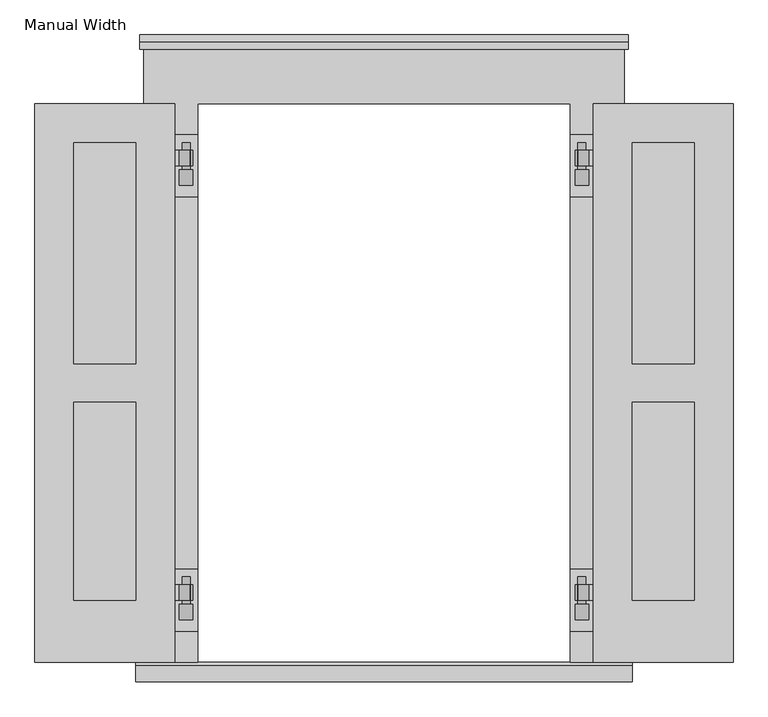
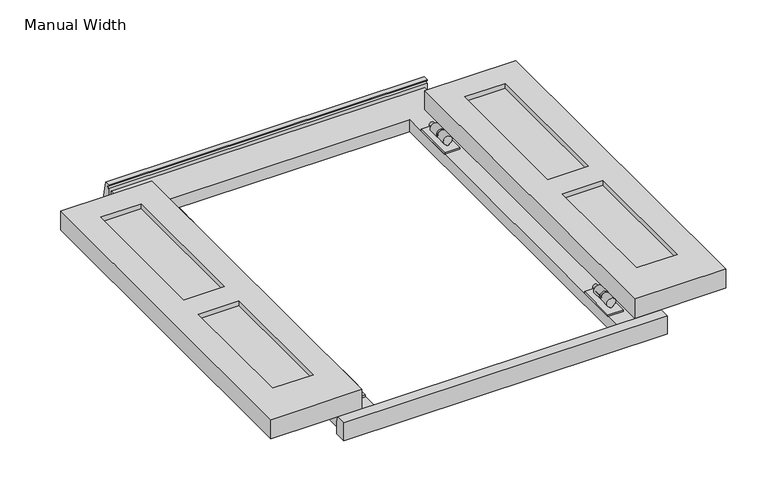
"""IFC4 building model written with IfcOpenShell, lengths in millimetres: proxy geometry, Shutters-Trim-Window-Exterior-Flat-Decorative_Drip_Cap-Cape_Cod : Manual Width."""

from ifc_helpers import new_model, si_unit, point, frame, frame_2d, origin, origin_with_axes, place, context, project, spatial, polyline, circle_curve, trimmed, segment, composite_curve, outline, extrude, source, transform, mapped, element, save
from ifc_brep_helpers import plane_surface, cylinder_surface, revolved_surface, advanced_brep


def manual_width_5ed0646b(model_context):
    return source(origin(), model_context, "Body", "SolidModel", [
        extrude(outline(polyline([(-571.5, 0.0), (-342.9, 0.0), (-342.9, -914.4), (-571.5, -914.4), (-571.5, 0.0)]), holes=[polyline([(-508.0, -63.5), (-508.0, -425.45), (-406.4, -425.45), (-406.4, -63.5), (-508.0, -63.5)]), polyline([(-406.4, -488.95), (-508.0, -488.95), (-508.0, -812.8), (-406.4, -812.8), (-406.4, -488.95)])]), frame((0.0, 0.0, 44.45), z_axis=(0.0, 0.0, 1.0), x_axis=(1.0, 0.0, 0.0)), (0.0, 0.0, 1.0), 50.8),
        extrude(outline(polyline([(-508.0, -63.5), (-406.4, -63.5), (-406.4, -425.45), (-508.0, -425.45), (-508.0, -63.5)])), frame((0.0, 0.0, 57.15), z_axis=(0.0, 0.0, 1.0), x_axis=(1.0, 0.0, 0.0)), (0.0, 0.0, 1.0), 25.4),
        extrude(outline(polyline([(-406.4, -488.95), (-406.4, -812.8), (-508.0, -812.8), (-508.0, -488.95), (-406.4, -488.95)])), frame((0.0, 0.0, 57.15), z_axis=(0.0, 0.0, 1.0), x_axis=(1.0, 0.0, 0.0)), (0.0, 0.0, 1.0), 25.4),
        extrude(outline(polyline([(571.5, 0.0), (571.5, -914.4), (342.9, -914.4), (342.9, 0.0), (571.5, 0.0)]), holes=[polyline([(508.0, -63.5), (406.4, -63.5), (406.4, -425.45), (508.0, -425.45), (508.0, -63.5)]), polyline([(406.4, -488.95), (406.4, -812.8), (508.0, -812.8), (508.0, -488.95), (406.4, -488.95)])]), frame((0.0, 0.0, 44.45), z_axis=(0.0, 0.0, 1.0), x_axis=(1.0, 0.0, 0.0)), (0.0, 0.0, 1.0), 50.8),
        extrude(outline(polyline([(508.0, -63.5), (508.0, -425.45), (406.4, -425.45), (406.4, -63.5), (508.0, -63.5)])), frame((0.0, 0.0, 57.15), z_axis=(0.0, 0.0, 1.0), x_axis=(1.0, 0.0, 0.0)), (0.0, 0.0, 1.0), 25.4),
        extrude(outline(polyline([(406.4, -488.95), (508.0, -488.95), (508.0, -812.8), (406.4, -812.8), (406.4, -488.95)])), frame((0.0, 0.0, 57.15), z_axis=(0.0, 0.0, 1.0), x_axis=(1.0, 0.0, 0.0)), (0.0, 0.0, 1.0), 25.4),
        extrude(outline(polyline([(-342.9, -762.0), (-304.8, -762.0), (-304.8, -863.6), (-342.9, -863.6), (-342.9, -762.0)])), frame((0.0, 0.0, 31.75), z_axis=(0.0, 0.0, 1.0), x_axis=(1.0, 0.0, 0.0)), (0.0, 0.0, 1.0), 4.7625),
        advanced_brep(
        [(-388.9375, -774.7, 44.45), (-363.474, -774.7, 44.45), (-363.474, -774.7, 39.6875), (-388.9375, -774.7, 39.6875), (-388.9375, -825.5, 39.6875), (-363.474, -825.5, 39.6875), (-363.474, -825.5, 44.45), (-388.9375, -825.5, 44.45), (-363.474, -787.4, 39.6875), (-323.85, -787.4, 39.6875), (-323.85, -812.8, 39.6875), (-363.474, -812.8, 39.6875), (-363.474, -812.8, 44.45), (-323.85, -812.8, 44.45), (-323.85, -787.4, 44.45), (-363.474, -787.4, 44.45), (-330.2, -812.8, 50.8), (-330.2, -787.4, 50.8), (-330.2, -812.8, 46.0375), (-330.2, -787.4, 46.0375), (-334.9625, -812.8, 46.0375), (-334.9625, -787.4, 46.0375), (-334.9625, -812.8, 50.8), (-334.9625, -787.4, 50.8)],
        [
            (0, 1),
            (1, 2),
            (2, 3),
            (3, 0),
            (4, 5),
            (5, 6),
            (6, 7),
            (7, 4),
            (2, 8),
            (8, 9),
            (9, 10),
            (10, 11),
            (11, 5),
            (4, 3),
            (7, 0),
            (6, 12),
            (12, 13),
            (13, 14),
            (14, 15),
            (15, 1),
            (16, 17),
            (17, 14, circle_curve(frame((-323.85, -787.4, 50.8), z_axis=(0.0, 1.0, 0.0), x_axis=(1.0, 0.0, 0.0)), 6.35)),
            (13, 16, circle_curve(frame((-323.85, -812.8, 50.8), z_axis=(0.0, -1.0, 0.0), x_axis=(1.0, 0.0, 0.0)), 6.35)),
            (18, 19),
            (19, 17),
            (16, 18),
            (20, 21),
            (21, 19),
            (18, 20),
            (22, 23),
            (23, 21),
            (20, 22),
            (9, 23, circle_curve(frame((-323.85, -787.4, 50.8), z_axis=(0.0, -1.0, 0.0), x_axis=(1.0, 0.0, 0.0)), 11.1125)),
            (22, 10, circle_curve(frame((-323.85, -812.8, 50.8), z_axis=(0.0, 1.0, 0.0), x_axis=(1.0, 0.0, 0.0)), 11.1125)),
            (12, 11),
            (8, 15),
        ],
        [
            plane_surface(frame((-323.85, -774.7, 50.8), z_axis=(0.0, 1.0, 0.0), x_axis=(0.0, 0.0, 1.0))),
            plane_surface(frame((-323.85, -825.5, 50.8), z_axis=(0.0, -1.0, 0.0), x_axis=(0.0, 0.0, 1.0))),
            plane_surface(frame((-388.9375, -774.7, 39.6875), z_axis=(0.0, 0.0, -1.0), x_axis=(0.0, -1.0, 0.0))),
            plane_surface(frame((-388.9375, -774.7, 44.45), z_axis=(-1.0, 0.0, 0.0), x_axis=(0.0, -1.0, 0.0))),
            plane_surface(frame((-323.85, -774.7, 44.45), z_axis=(0.0, 0.0, 1.0), x_axis=(0.0, -1.0, 0.0))),
            revolved_surface(polyline([(-317.5, -812.8, 50.8), (-317.5, -787.4, 50.8)]), (-323.85, -774.7, 50.8), (0.0, -1.0, 0.0)),
            plane_surface(frame((-330.2, -774.7, 46.0375), z_axis=(1.0, 0.0, 0.0), x_axis=(0.0, -1.0, 0.0))),
            plane_surface(frame((-334.9625, -774.7, 46.0375), z_axis=(0.0, 0.0, -1.0), x_axis=(0.0, -1.0, 0.0))),
            plane_surface(frame((-334.9625, -774.7, 50.8), z_axis=(-1.0, 0.0, 0.0), x_axis=(0.0, -1.0, 0.0))),
            cylinder_surface(frame((-323.85, -774.7, 50.8), z_axis=(0.0, 1.0, 0.0), x_axis=(1.0, 0.0, 0.0)), 11.1125),
            plane_surface(frame((-323.85, -812.8, 50.8), z_axis=(0.0, -1.0, 0.0), x_axis=(0.0, 0.0, 1.0))),
            plane_surface(frame((-363.474, -812.8, 44.45), z_axis=(1.0, 0.0, 0.0), x_axis=(0.0, -1.0, 0.0))),
            plane_surface(frame((-323.85, -787.4, 50.8), z_axis=(0.0, 1.0, 0.0), x_axis=(0.0, 0.0, 1.0))),
            plane_surface(frame((-363.474, -774.7, 44.45), z_axis=(1.0, 0.0, 0.0), x_axis=(0.0, -1.0, 0.0))),
        ],
        [
            (0, [[1, 2, 3, 4]]),
            (1, [[5, 6, 7, 8]]),
            (2, [[-3, 9, 10, 11, 12, 13, -5, 14]]),
            (3, [[-14, -8, 15, -4]]),
            (4, [[-7, 16, 17, 18, 19, 20, -1, -15]]),
            (5, [[21, 22, -18, 23]]),
            (6, [[24, 25, -21, 26]]),
            (7, [[27, 28, -24, 29]]),
            (8, [[30, 31, -27, 32]]),
            (9, [[-11, 33, -30, 34]]),
            (10, [[-12, -34, -32, -29, -26, -23, -17, 35]]),
            (11, [[-16, -6, -13, -35]]),
            (12, [[-19, -22, -25, -28, -31, -33, -10, 36]]),
            (13, [[-9, -2, -20, -36]]),
        ],
    ),
        advanced_brep(
        [(-326.23125, -819.15, 36.5125), (-326.23125, -819.15, 39.945632), (-321.46875, -819.15, 39.945632), (-321.46875, -819.15, 36.5125), (-317.5, -819.15, 50.8), (-330.2, -819.15, 50.8), (-326.23125, -844.55, 36.5125), (-321.46875, -844.55, 36.5125), (-321.46875, -844.55, 39.945632), (-326.23125, -844.55, 39.945632), (-330.2, -774.7, 50.8), (-317.5, -774.7, 50.8)],
        [
            (0, 1),
            (1, 2, circle_curve(frame((-323.85, -819.15, 50.8), z_axis=(0.0, 1.0, 0.0), x_axis=(1.0, 0.0, 0.0)), 11.1125)),
            (2, 3),
            (3, 0),
            (4, 5, circle_curve(frame((-323.85, -819.15, 50.8), z_axis=(0.0, -1.0, 0.0), x_axis=(1.0, 0.0, 0.0)), 6.35)),
            (5, 4, circle_curve(frame((-323.85, -819.15, 50.8), z_axis=(0.0, -1.0, 0.0), x_axis=(1.0, 0.0, 0.0)), 6.35)),
            (6, 7),
            (7, 8),
            (8, 9, circle_curve(frame((-323.85, -844.55, 50.8), z_axis=(0.0, -1.0, 0.0), x_axis=(1.0, 0.0, 0.0)), 11.1125)),
            (9, 6),
            (0, 6),
            (9, 1),
            (3, 7),
            (2, 8),
            (10, 11, circle_curve(frame((-323.85, -774.7, 50.8), z_axis=(0.0, 1.0, 0.0), x_axis=(1.0, 0.0, 0.0)), 6.35)),
            (11, 10, circle_curve(frame((-323.85, -774.7, 50.8), z_axis=(0.0, 1.0, 0.0), x_axis=(1.0, 0.0, 0.0)), 6.35)),
            (11, 4),
            (5, 10),
        ],
        [
            plane_surface(frame((-321.46875, -819.15, 36.5125), z_axis=(0.0, 1.0, 0.0), x_axis=(1.0, 0.0, 6.23955382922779e-12))),
            plane_surface(frame((-321.46875, -844.55, 36.5125), z_axis=(0.0, -1.0, 0.0), x_axis=(-1.0, 0.0, -6.23955382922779e-12))),
            plane_surface(frame((-326.23125, -819.15, 39.945632), z_axis=(-1.0, 0.0, 0.0), x_axis=(0.0, -1.0, 0.0))),
            plane_surface(frame((-326.23125, -819.15, 36.5125), z_axis=(6.23955382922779e-12, 0.0, -1.0), x_axis=(0.0, -1.0, 0.0))),
            plane_surface(frame((-321.46875, -819.15, 36.5125), z_axis=(1.0, 0.0, 0.0), x_axis=(0.0, -1.0, 0.0))),
            cylinder_surface(frame((-323.85, -844.55, 50.8), z_axis=(0.0, 1.0, 0.0), x_axis=(1.0, 0.0, 0.0)), 11.1125),
            plane_surface(frame((-317.5, -774.7, 50.8), z_axis=(0.0, 1.0, 0.0), x_axis=(0.0, 0.0, 1.0))),
            cylinder_surface(frame((-323.85, -844.55, 50.8), z_axis=(0.0, 1.0, 0.0), x_axis=(1.0, 0.0, 0.0)), 6.35),
        ],
        [
            (0, [[1, 2, 3, 4], [5, 6]]),
            (1, [[7, 8, 9, 10]]),
            (2, [[11, -10, 12, -1]]),
            (3, [[13, -7, -11, -4]]),
            (4, [[14, -8, -13, -3]]),
            (5, [[-12, -9, -14, -2]]),
            (6, [[15, 16]]),
            (7, [[17, -6, 18, -16]]),
            (7, [[-18, -5, -17, -15]]),
        ],
    ),
        extrude(outline(polyline([(342.9, -762.0), (342.9, -863.6), (304.8, -863.6), (304.8, -762.0), (342.9, -762.0)])), frame((0.0, 0.0, 31.75), z_axis=(0.0, 0.0, 1.0), x_axis=(1.0, 0.0, 0.0)), (0.0, 0.0, 1.0), 4.7625),
        advanced_brep(
        [(388.9375, -774.7, 44.45), (388.9375, -774.7, 39.6875), (363.474, -774.7, 39.6875), (363.474, -774.7, 44.45), (388.9375, -825.5, 39.6875), (388.9375, -825.5, 44.45), (363.474, -825.5, 44.45), (363.474, -825.5, 39.6875), (363.474, -812.8, 39.6875), (323.85, -812.8, 39.6875), (323.85, -787.4, 39.6875), (363.474, -787.4, 39.6875), (363.474, -787.4, 44.45), (323.85, -787.4, 44.45), (323.85, -812.8, 44.45), (363.474, -812.8, 44.45), (330.2, -812.8, 50.8), (330.2, -787.4, 50.8), (330.2, -812.8, 46.0375), (330.2, -787.4, 46.0375), (334.9625, -812.8, 46.0375), (334.9625, -787.4, 46.0375), (334.9625, -812.8, 50.8), (334.9625, -787.4, 50.8)],
        [
            (0, 1),
            (1, 2),
            (2, 3),
            (3, 0),
            (4, 5),
            (5, 6),
            (6, 7),
            (7, 4),
            (1, 4),
            (7, 8),
            (8, 9),
            (9, 10),
            (10, 11),
            (11, 2),
            (0, 5),
            (3, 12),
            (12, 13),
            (13, 14),
            (14, 15),
            (15, 6),
            (16, 14, circle_curve(frame((323.85, -812.8, 50.8), z_axis=(0.0, -1.0, 0.0), x_axis=(-1.0, 0.0, 0.0)), 6.35)),
            (13, 17, circle_curve(frame((323.85, -787.4, 50.8), z_axis=(0.0, 1.0, 0.0), x_axis=(-1.0, 0.0, 0.0)), 6.35)),
            (17, 16),
            (18, 16),
            (17, 19),
            (19, 18),
            (20, 18),
            (19, 21),
            (21, 20),
            (22, 20),
            (21, 23),
            (23, 22),
            (9, 22, circle_curve(frame((323.85, -812.8, 50.8), z_axis=(0.0, 1.0, 0.0), x_axis=(-1.0, 0.0, 0.0)), 11.1125)),
            (23, 10, circle_curve(frame((323.85, -787.4, 50.8), z_axis=(0.0, -1.0, 0.0), x_axis=(-1.0, 0.0, 0.0)), 11.1125)),
            (8, 15),
            (12, 11),
        ],
        [
            plane_surface(frame((323.85, -774.7, 50.8), z_axis=(0.0, 1.0, 0.0), x_axis=(0.0, 0.0, 1.0))),
            plane_surface(frame((323.85, -825.5, 50.8), z_axis=(0.0, -1.0, 0.0), x_axis=(0.0, 0.0, 1.0))),
            plane_surface(frame((388.9375, -774.7, 39.6875), z_axis=(0.0, 0.0, -1.0), x_axis=(0.0, -1.0, 0.0))),
            plane_surface(frame((388.9375, -774.7, 44.45), z_axis=(1.0, 0.0, 0.0), x_axis=(0.0, -1.0, 0.0))),
            plane_surface(frame((323.85, -774.7, 44.45), z_axis=(0.0, 0.0, 1.0), x_axis=(0.0, -1.0, 0.0))),
            revolved_surface(polyline([(317.5, -812.8, 50.8), (317.5, -787.4, 50.8)]), (323.85, -774.7, 50.8), (0.0, -1.0, 0.0)),
            plane_surface(frame((330.2, -774.7, 46.0375), z_axis=(-1.0, 0.0, 0.0), x_axis=(0.0, -1.0, 0.0))),
            plane_surface(frame((334.9625, -774.7, 46.0375), z_axis=(0.0, 0.0, -1.0), x_axis=(0.0, -1.0, 0.0))),
            plane_surface(frame((334.9625, -774.7, 50.8), z_axis=(1.0, 0.0, 0.0), x_axis=(0.0, -1.0, 0.0))),
            cylinder_surface(frame((323.85, -774.7, 50.8), z_axis=(0.0, 1.0, 0.0), x_axis=(-1.0, 0.0, 0.0)), 11.1125),
            plane_surface(frame((323.85, -812.8, 50.8), z_axis=(0.0, -1.0, 0.0), x_axis=(0.0, 0.0, 1.0))),
            plane_surface(frame((363.474, -812.8, 44.45), z_axis=(-1.0, 0.0, 0.0), x_axis=(0.0, -1.0, 0.0))),
            plane_surface(frame((323.85, -787.4, 50.8), z_axis=(0.0, 1.0, 0.0), x_axis=(0.0, 0.0, 1.0))),
            plane_surface(frame((363.474, -774.7, 44.45), z_axis=(-1.0, 0.0, 0.0), x_axis=(0.0, -1.0, 0.0))),
        ],
        [
            (0, [[1, 2, 3, 4]]),
            (1, [[5, 6, 7, 8]]),
            (2, [[9, -8, 10, 11, 12, 13, 14, -2]]),
            (3, [[-1, 15, -5, -9]]),
            (4, [[-15, -4, 16, 17, 18, 19, 20, -6]]),
            (5, [[21, -18, 22, 23]]),
            (6, [[24, -23, 25, 26]]),
            (7, [[27, -26, 28, 29]]),
            (8, [[30, -29, 31, 32]]),
            (9, [[33, -32, 34, -12]]),
            (10, [[35, -19, -21, -24, -27, -30, -33, -11]]),
            (11, [[-35, -10, -7, -20]]),
            (12, [[36, -13, -34, -31, -28, -25, -22, -17]]),
            (13, [[-36, -16, -3, -14]]),
        ],
    ),
        advanced_brep(
        [(326.23125, -819.15, 36.5125), (321.46875, -819.15, 36.5125), (321.46875, -819.15, 39.945632), (326.23125, -819.15, 39.945632), (317.5, -819.15, 50.8), (330.2, -819.15, 50.8), (326.23125, -844.55, 36.5125), (326.23125, -844.55, 39.945632), (321.46875, -844.55, 39.945632), (321.46875, -844.55, 36.5125), (330.2, -774.7, 50.8), (317.5, -774.7, 50.8)],
        [
            (0, 1),
            (1, 2),
            (2, 3, circle_curve(frame((323.85, -819.15, 50.8), z_axis=(0.0, 1.0, 0.0), x_axis=(-1.0, 0.0, 0.0)), 11.1125)),
            (3, 0),
            (4, 5, circle_curve(frame((323.85, -819.15, 50.8), z_axis=(0.0, -1.0, 0.0), x_axis=(-1.0, 0.0, 0.0)), 6.35)),
            (5, 4, circle_curve(frame((323.85, -819.15, 50.8), z_axis=(0.0, -1.0, 0.0), x_axis=(-1.0, 0.0, 0.0)), 6.35)),
            (6, 7),
            (7, 8, circle_curve(frame((323.85, -844.55, 50.8), z_axis=(0.0, -1.0, 0.0), x_axis=(-1.0, 0.0, 0.0)), 11.1125)),
            (8, 9),
            (9, 6),
            (3, 7),
            (6, 0),
            (9, 1),
            (8, 2),
            (10, 11, circle_curve(frame((323.85, -774.7, 50.8), z_axis=(0.0, 1.0, 0.0), x_axis=(-1.0, 0.0, 0.0)), 6.35)),
            (11, 10, circle_curve(frame((323.85, -774.7, 50.8), z_axis=(0.0, 1.0, 0.0), x_axis=(-1.0, 0.0, 0.0)), 6.35)),
            (10, 5),
            (4, 11),
        ],
        [
            plane_surface(frame((321.46875, -819.15, 36.5125), z_axis=(0.0, 1.0, 0.0), x_axis=(-1.0, 0.0, 6.246014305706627e-12))),
            plane_surface(frame((321.46875, -844.55, 36.5125), z_axis=(0.0, -1.0, 0.0), x_axis=(1.0, 0.0, -6.246014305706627e-12))),
            plane_surface(frame((326.23125, -819.15, 39.945632), z_axis=(1.0, 0.0, 0.0), x_axis=(0.0, -1.0, 0.0))),
            plane_surface(frame((326.23125, -819.15, 36.5125), z_axis=(-6.246014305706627e-12, 0.0, -1.0), x_axis=(0.0, -1.0, 0.0))),
            plane_surface(frame((321.46875, -819.15, 36.5125), z_axis=(-1.0, 0.0, 0.0), x_axis=(0.0, -1.0, 0.0))),
            cylinder_surface(frame((323.85, -844.55, 50.8), z_axis=(0.0, 1.0, 0.0), x_axis=(-1.0, 0.0, 0.0)), 11.1125),
            plane_surface(frame((317.5, -774.7, 50.8), z_axis=(0.0, 1.0, 0.0), x_axis=(0.0, 0.0, 1.0))),
            cylinder_surface(frame((323.85, -844.55, 50.8), z_axis=(0.0, 1.0, 0.0), x_axis=(-1.0, 0.0, 0.0)), 6.35),
        ],
        [
            (0, [[1, 2, 3, 4], [5, 6]]),
            (1, [[7, 8, 9, 10]]),
            (2, [[-4, 11, -7, 12]]),
            (3, [[-1, -12, -10, 13]]),
            (4, [[-2, -13, -9, 14]]),
            (5, [[-3, -14, -8, -11]]),
            (6, [[15, 16]]),
            (7, [[-15, 17, -5, 18]]),
            (7, [[-16, -18, -6, -17]]),
        ],
    ),
        extrude(outline(polyline([(342.9, -50.8), (342.9, -152.4), (304.8, -152.4), (304.8, -50.8), (342.9, -50.8)])), frame((0.0, 0.0, 31.75), z_axis=(0.0, 0.0, 1.0), x_axis=(1.0, 0.0, 0.0)), (0.0, 0.0, 1.0), 4.7625),
        advanced_brep(
        [(388.9375, -63.5, 44.45), (388.9375, -63.5, 39.6875), (363.474, -63.5, 39.6875), (363.474, -63.5, 44.45), (388.9375, -114.3, 39.6875), (388.9375, -114.3, 44.45), (363.474, -114.3, 44.45), (363.474, -114.3, 39.6875), (363.474, -101.6, 39.6875), (323.85, -101.6, 39.6875), (323.85, -76.2, 39.6875), (363.474, -76.2, 39.6875), (363.474, -76.2, 44.45), (323.85, -76.2, 44.45), (323.85, -101.6, 44.45), (363.474, -101.6, 44.45), (330.2, -101.6, 50.8), (330.2, -76.2, 50.8), (330.2, -101.6, 46.0375), (330.2, -76.2, 46.0375), (334.9625, -101.6, 46.0375), (334.9625, -76.2, 46.0375), (334.9625, -101.6, 50.8), (334.9625, -76.2, 50.8)],
        [
            (0, 1),
            (1, 2),
            (2, 3),
            (3, 0),
            (4, 5),
            (5, 6),
            (6, 7),
            (7, 4),
            (1, 4),
            (7, 8),
            (8, 9),
            (9, 10),
            (10, 11),
            (11, 2),
            (0, 5),
            (3, 12),
            (12, 13),
            (13, 14),
            (14, 15),
            (15, 6),
            (16, 14, circle_curve(frame((323.85, -101.6, 50.8), z_axis=(0.0, -1.0, 0.0), x_axis=(-1.0, 0.0, 0.0)), 6.35)),
            (13, 17, circle_curve(frame((323.85, -76.2, 50.8), z_axis=(0.0, 1.0, 0.0), x_axis=(-1.0, 0.0, 0.0)), 6.35)),
            (17, 16),
            (18, 16),
            (17, 19),
            (19, 18),
            (20, 18),
            (19, 21),
            (21, 20),
            (22, 20),
            (21, 23),
            (23, 22),
            (9, 22, circle_curve(frame((323.85, -101.6, 50.8), z_axis=(0.0, 1.0, 0.0), x_axis=(-1.0, 0.0, 0.0)), 11.1125)),
            (23, 10, circle_curve(frame((323.85, -76.2, 50.8), z_axis=(0.0, -1.0, 0.0), x_axis=(-1.0, 0.0, 0.0)), 11.1125)),
            (8, 15),
            (12, 11),
        ],
        [
            plane_surface(frame((323.85, -63.5, 50.8), z_axis=(0.0, 1.0, 0.0), x_axis=(0.0, 0.0, 1.0))),
            plane_surface(frame((323.85, -114.3, 50.8), z_axis=(0.0, -1.0, 0.0), x_axis=(0.0, 0.0, 1.0))),
            plane_surface(frame((388.9375, -63.5, 39.6875), z_axis=(0.0, 0.0, -1.0), x_axis=(0.0, -1.0, 0.0))),
            plane_surface(frame((388.9375, -63.5, 44.45), z_axis=(1.0, 0.0, 0.0), x_axis=(0.0, -1.0, 0.0))),
            plane_surface(frame((323.85, -63.5, 44.45), z_axis=(0.0, 0.0, 1.0), x_axis=(0.0, -1.0, 0.0))),
            revolved_surface(polyline([(317.5, -101.6, 50.8), (317.5, -76.2, 50.8)]), (323.85, -63.5, 50.8), (0.0, -1.0, 0.0)),
            plane_surface(frame((330.2, -63.5, 46.0375), z_axis=(-1.0, 0.0, 0.0), x_axis=(0.0, -1.0, 0.0))),
            plane_surface(frame((334.9625, -63.5, 46.0375), z_axis=(0.0, 0.0, -1.0), x_axis=(0.0, -1.0, 0.0))),
            plane_surface(frame((334.9625, -63.5, 50.8), z_axis=(1.0, 0.0, 0.0), x_axis=(0.0, -1.0, 0.0))),
            cylinder_surface(frame((323.85, -63.5, 50.8), z_axis=(0.0, 1.0, 0.0), x_axis=(-1.0, 0.0, 0.0)), 11.1125),
            plane_surface(frame((323.85, -101.6, 50.8), z_axis=(0.0, -1.0, 0.0), x_axis=(0.0, 0.0, 1.0))),
            plane_surface(frame((363.474, -101.6, 44.45), z_axis=(-1.0, 0.0, 0.0), x_axis=(0.0, -1.0, 0.0))),
            plane_surface(frame((323.85, -76.2, 50.8), z_axis=(0.0, 1.0, 0.0), x_axis=(0.0, 0.0, 1.0))),
            plane_surface(frame((363.474, -63.5, 44.45), z_axis=(-1.0, 0.0, 0.0), x_axis=(0.0, -1.0, 0.0))),
        ],
        [
            (0, [[1, 2, 3, 4]]),
            (1, [[5, 6, 7, 8]]),
            (2, [[9, -8, 10, 11, 12, 13, 14, -2]]),
            (3, [[-1, 15, -5, -9]]),
            (4, [[-15, -4, 16, 17, 18, 19, 20, -6]]),
            (5, [[21, -18, 22, 23]]),
            (6, [[24, -23, 25, 26]]),
            (7, [[27, -26, 28, 29]]),
            (8, [[30, -29, 31, 32]]),
            (9, [[33, -32, 34, -12]]),
            (10, [[35, -19, -21, -24, -27, -30, -33, -11]]),
            (11, [[-35, -10, -7, -20]]),
            (12, [[36, -13, -34, -31, -28, -25, -22, -17]]),
            (13, [[-36, -16, -3, -14]]),
        ],
    ),
        advanced_brep(
        [(326.23125, -107.95, 36.5125), (321.46875, -107.95, 36.5125), (321.46875, -107.95, 39.945632), (326.23125, -107.95, 39.945632), (317.5, -107.95, 50.8), (330.2, -107.95, 50.8), (326.23125, -133.35, 36.5125), (326.23125, -133.35, 39.945632), (321.46875, -133.35, 39.945632), (321.46875, -133.35, 36.5125), (330.2, -63.5, 50.8), (317.5, -63.5, 50.8)],
        [
            (0, 1),
            (1, 2),
            (2, 3, circle_curve(frame((323.85, -107.95, 50.8), z_axis=(0.0, 1.0, 0.0), x_axis=(-1.0, 0.0, 0.0)), 11.1125)),
            (3, 0),
            (4, 5, circle_curve(frame((323.85, -107.95, 50.8), z_axis=(0.0, -1.0, 0.0), x_axis=(-1.0, 0.0, 0.0)), 6.35)),
            (5, 4, circle_curve(frame((323.85, -107.95, 50.8), z_axis=(0.0, -1.0, 0.0), x_axis=(-1.0, 0.0, 0.0)), 6.35)),
            (6, 7),
            (7, 8, circle_curve(frame((323.85, -133.35, 50.8), z_axis=(0.0, -1.0, 0.0), x_axis=(-1.0, 0.0, 0.0)), 11.1125)),
            (8, 9),
            (9, 6),
            (3, 7),
            (6, 0),
            (9, 1),
            (8, 2),
            (10, 11, circle_curve(frame((323.85, -63.5, 50.8), z_axis=(0.0, 1.0, 0.0), x_axis=(-1.0, 0.0, 0.0)), 6.35)),
            (11, 10, circle_curve(frame((323.85, -63.5, 50.8), z_axis=(0.0, 1.0, 0.0), x_axis=(-1.0, 0.0, 0.0)), 6.35)),
            (10, 5),
            (4, 11),
        ],
        [
            plane_surface(frame((321.46875, -107.95, 36.5125), z_axis=(0.0, 1.0, 0.0), x_axis=(-1.0, 0.0, 6.246014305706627e-12))),
            plane_surface(frame((321.46875, -133.35, 36.5125), z_axis=(0.0, -1.0, 0.0), x_axis=(1.0, 0.0, -6.246014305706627e-12))),
            plane_surface(frame((326.23125, -107.95, 39.945632), z_axis=(1.0, 0.0, 0.0), x_axis=(0.0, -1.0, 0.0))),
            plane_surface(frame((326.23125, -107.95, 36.5125), z_axis=(-6.246014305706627e-12, 0.0, -1.0), x_axis=(0.0, -1.0, 0.0))),
            plane_surface(frame((321.46875, -107.95, 36.5125), z_axis=(-1.0, 0.0, 0.0), x_axis=(0.0, -1.0, 0.0))),
            cylinder_surface(frame((323.85, -133.35, 50.8), z_axis=(0.0, 1.0, 0.0), x_axis=(-1.0, 0.0, 0.0)), 11.1125),
            plane_surface(frame((317.5, -63.5, 50.8), z_axis=(0.0, 1.0, 0.0), x_axis=(0.0, 0.0, 1.0))),
            cylinder_surface(frame((323.85, -133.35, 50.8), z_axis=(0.0, 1.0, 0.0), x_axis=(-1.0, 0.0, 0.0)), 6.35),
        ],
        [
            (0, [[1, 2, 3, 4], [5, 6]]),
            (1, [[7, 8, 9, 10]]),
            (2, [[-4, 11, -7, 12]]),
            (3, [[-1, -12, -10, 13]]),
            (4, [[-2, -13, -9, 14]]),
            (5, [[-3, -14, -8, -11]]),
            (6, [[15, 16]]),
            (7, [[-15, 17, -5, 18]]),
            (7, [[-16, -18, -6, -17]]),
        ],
    ),
        extrude(outline(polyline([(-342.9, -50.8), (-304.8, -50.8), (-304.8, -152.4), (-342.9, -152.4), (-342.9, -50.8)])), frame((0.0, 0.0, 31.75), z_axis=(0.0, 0.0, 1.0), x_axis=(1.0, 0.0, 0.0)), (0.0, 0.0, 1.0), 4.7625),
        advanced_brep(
        [(-388.9375, -63.5, 44.45), (-363.474, -63.5, 44.45), (-363.474, -63.5, 39.6875), (-388.9375, -63.5, 39.6875), (-388.9375, -114.3, 39.6875), (-363.474, -114.3, 39.6875), (-363.474, -114.3, 44.45), (-388.9375, -114.3, 44.45), (-363.474, -76.2, 39.6875), (-323.85, -76.2, 39.6875), (-323.85, -101.6, 39.6875), (-363.474, -101.6, 39.6875), (-363.474, -101.6, 44.45), (-323.85, -101.6, 44.45), (-323.85, -76.2, 44.45), (-363.474, -76.2, 44.45), (-330.2, -101.6, 50.8), (-330.2, -76.2, 50.8), (-330.2, -101.6, 46.0375), (-330.2, -76.2, 46.0375), (-334.9625, -101.6, 46.0375), (-334.9625, -76.2, 46.0375), (-334.9625, -101.6, 50.8), (-334.9625, -76.2, 50.8)],
        [
            (0, 1),
            (1, 2),
            (2, 3),
            (3, 0),
            (4, 5),
            (5, 6),
            (6, 7),
            (7, 4),
            (2, 8),
            (8, 9),
            (9, 10),
            (10, 11),
            (11, 5),
            (4, 3),
            (7, 0),
            (6, 12),
            (12, 13),
            (13, 14),
            (14, 15),
            (15, 1),
            (16, 17),
            (17, 14, circle_curve(frame((-323.85, -76.2, 50.8), z_axis=(0.0, 1.0, 0.0), x_axis=(1.0, 0.0, 0.0)), 6.35)),
            (13, 16, circle_curve(frame((-323.85, -101.6, 50.8), z_axis=(0.0, -1.0, 0.0), x_axis=(1.0, 0.0, 0.0)), 6.35)),
            (18, 19),
            (19, 17),
            (16, 18),
            (20, 21),
            (21, 19),
            (18, 20),
            (22, 23),
            (23, 21),
            (20, 22),
            (9, 23, circle_curve(frame((-323.85, -76.2, 50.8), z_axis=(0.0, -1.0, 0.0), x_axis=(1.0, 0.0, 0.0)), 11.1125)),
            (22, 10, circle_curve(frame((-323.85, -101.6, 50.8), z_axis=(0.0, 1.0, 0.0), x_axis=(1.0, 0.0, 0.0)), 11.1125)),
            (12, 11),
            (8, 15),
        ],
        [
            plane_surface(frame((-323.85, -63.5, 50.8), z_axis=(0.0, 1.0, 0.0), x_axis=(0.0, 0.0, 1.0))),
            plane_surface(frame((-323.85, -114.3, 50.8), z_axis=(0.0, -1.0, 0.0), x_axis=(0.0, 0.0, 1.0))),
            plane_surface(frame((-388.9375, -63.5, 39.6875), z_axis=(0.0, 0.0, -1.0), x_axis=(0.0, -1.0, 0.0))),
            plane_surface(frame((-388.9375, -63.5, 44.45), z_axis=(-1.0, 0.0, 0.0), x_axis=(0.0, -1.0, 0.0))),
            plane_surface(frame((-323.85, -63.5, 44.45), z_axis=(0.0, 0.0, 1.0), x_axis=(0.0, -1.0, 0.0))),
            revolved_surface(polyline([(-317.5, -101.6, 50.8), (-317.5, -76.2, 50.8)]), (-323.85, -63.5, 50.8), (0.0, -1.0, 0.0)),
            plane_surface(frame((-330.2, -63.5, 46.0375), z_axis=(1.0, 0.0, 0.0), x_axis=(0.0, -1.0, 0.0))),
            plane_surface(frame((-334.9625, -63.5, 46.0375), z_axis=(0.0, 0.0, -1.0), x_axis=(0.0, -1.0, 0.0))),
            plane_surface(frame((-334.9625, -63.5, 50.8), z_axis=(-1.0, 0.0, 0.0), x_axis=(0.0, -1.0, 0.0))),
            cylinder_surface(frame((-323.85, -63.5, 50.8), z_axis=(0.0, 1.0, 0.0), x_axis=(1.0, 0.0, 0.0)), 11.1125),
            plane_surface(frame((-323.85, -101.6, 50.8), z_axis=(0.0, -1.0, 0.0), x_axis=(0.0, 0.0, 1.0))),
            plane_surface(frame((-363.474, -101.6, 44.45), z_axis=(1.0, 0.0, 0.0), x_axis=(0.0, -1.0, 0.0))),
            plane_surface(frame((-323.85, -76.2, 50.8), z_axis=(0.0, 1.0, 0.0), x_axis=(0.0, 0.0, 1.0))),
            plane_surface(frame((-363.474, -63.5, 44.45), z_axis=(1.0, 0.0, 0.0), x_axis=(0.0, -1.0, 0.0))),
        ],
        [
            (0, [[1, 2, 3, 4]]),
            (1, [[5, 6, 7, 8]]),
            (2, [[-3, 9, 10, 11, 12, 13, -5, 14]]),
            (3, [[-14, -8, 15, -4]]),
            (4, [[-7, 16, 17, 18, 19, 20, -1, -15]]),
            (5, [[21, 22, -18, 23]]),
            (6, [[24, 25, -21, 26]]),
            (7, [[27, 28, -24, 29]]),
            (8, [[30, 31, -27, 32]]),
            (9, [[-11, 33, -30, 34]]),
            (10, [[-12, -34, -32, -29, -26, -23, -17, 35]]),
            (11, [[-16, -6, -13, -35]]),
            (12, [[-19, -22, -25, -28, -31, -33, -10, 36]]),
            (13, [[-9, -2, -20, -36]]),
        ],
    ),
        advanced_brep(
        [(-326.23125, -107.95, 36.5125), (-326.23125, -107.95, 39.945632), (-321.46875, -107.95, 39.945632), (-321.46875, -107.95, 36.5125), (-317.5, -107.95, 50.8), (-330.2, -107.95, 50.8), (-326.23125, -133.35, 36.5125), (-321.46875, -133.35, 36.5125), (-321.46875, -133.35, 39.945632), (-326.23125, -133.35, 39.945632), (-330.2, -63.5, 50.8), (-317.5, -63.5, 50.8)],
        [
            (0, 1),
            (1, 2, circle_curve(frame((-323.85, -107.95, 50.8), z_axis=(0.0, 1.0, 0.0), x_axis=(1.0, 0.0, 0.0)), 11.1125)),
            (2, 3),
            (3, 0),
            (4, 5, circle_curve(frame((-323.85, -107.95, 50.8), z_axis=(0.0, -1.0, 0.0), x_axis=(1.0, 0.0, 0.0)), 6.35)),
            (5, 4, circle_curve(frame((-323.85, -107.95, 50.8), z_axis=(0.0, -1.0, 0.0), x_axis=(1.0, 0.0, 0.0)), 6.35)),
            (6, 7),
            (7, 8),
            (8, 9, circle_curve(frame((-323.85, -133.35, 50.8), z_axis=(0.0, -1.0, 0.0), x_axis=(1.0, 0.0, 0.0)), 11.1125)),
            (9, 6),
            (0, 6),
            (9, 1),
            (3, 7),
            (2, 8),
            (10, 11, circle_curve(frame((-323.85, -63.5, 50.8), z_axis=(0.0, 1.0, 0.0), x_axis=(1.0, 0.0, 0.0)), 6.35)),
            (11, 10, circle_curve(frame((-323.85, -63.5, 50.8), z_axis=(0.0, 1.0, 0.0), x_axis=(1.0, 0.0, 0.0)), 6.35)),
            (11, 4),
            (5, 10),
        ],
        [
            plane_surface(frame((-321.46875, -107.95, 36.5125), z_axis=(0.0, 1.0, 0.0), x_axis=(1.0, 0.0, 6.23955382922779e-12))),
            plane_surface(frame((-321.46875, -133.35, 36.5125), z_axis=(0.0, -1.0, 0.0), x_axis=(-1.0, 0.0, -6.23955382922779e-12))),
            plane_surface(frame((-326.23125, -107.95, 39.945632), z_axis=(-1.0, 0.0, 0.0), x_axis=(0.0, -1.0, 0.0))),
            plane_surface(frame((-326.23125, -107.95, 36.5125), z_axis=(6.23955382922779e-12, 0.0, -1.0), x_axis=(0.0, -1.0, 0.0))),
            plane_surface(frame((-321.46875, -107.95, 36.5125), z_axis=(1.0, 0.0, 0.0), x_axis=(0.0, -1.0, 0.0))),
            cylinder_surface(frame((-323.85, -133.35, 50.8), z_axis=(0.0, 1.0, 0.0), x_axis=(1.0, 0.0, 0.0)), 11.1125),
            plane_surface(frame((-317.5, -63.5, 50.8), z_axis=(0.0, 1.0, 0.0), x_axis=(0.0, 0.0, 1.0))),
            cylinder_surface(frame((-323.85, -133.35, 50.8), z_axis=(0.0, 1.0, 0.0), x_axis=(1.0, 0.0, 0.0)), 6.35),
        ],
        [
            (0, [[1, 2, 3, 4], [5, 6]]),
            (1, [[7, 8, 9, 10]]),
            (2, [[11, -10, 12, -1]]),
            (3, [[13, -7, -11, -4]]),
            (4, [[14, -8, -13, -3]]),
            (5, [[-12, -9, -14, -2]]),
            (6, [[15, 16]]),
            (7, [[17, -6, 18, -16]]),
            (7, [[-18, -5, -17, -15]]),
        ],
    ),
        extrude(outline(polyline([(-393.7, 88.9), (393.7, 88.9), (393.7, -914.4), (304.8, -914.4), (304.8, 0.0), (-304.8, 0.0), (-304.8, -914.4), (-393.7, -914.4), (-393.7, 88.9)])), origin_with_axes(), (0.0, 0.0, 1.0), 31.75),
        extrude(outline(polyline([(-914.4, 31.75), (-914.4, 0.0), (-946.15, 0.0), (-946.15, 47.625), (-920.1780275, 47.625), (-914.4, 31.75)])), frame((-406.4, 0.0, 0.0), z_axis=(1.0, 0.0, 0.0), x_axis=(0.0, 1.0, 0.0)), (0.0, 0.0, 1.0), 812.8),
        extrude(outline(composite_curve([segment(polyline([(88.9, 0.0), (88.9, 41.275)]), True, "CONTINUOUS"), segment(trimmed(circle_curve(frame_2d((88.9, 44.45)), 3.175), [point((88.9, 41.275))], [point((88.9, 47.625))], True, "CARTESIAN"), True, "CONTINUOUS"), segment(polyline([(88.9, 47.625), (88.9, 50.8), (100.80625, 50.8), (112.7125, 0.0), (88.9, 0.0)]), True, "CONTINUOUS")], self_intersect=False)), frame((-400.05, 0.0, 0.0), z_axis=(1.0, 0.0, 0.0), x_axis=(0.0, 1.0, 0.0)), (0.0, 0.0, 1.0), 800.1),
    ])


if __name__ == "__main__":
    model = new_model("IFC4")
    model_context = context("Model", 3, world=origin())
    ifc_project = project(units=[si_unit("LENGTHUNIT", "METRE", prefix="MILLI")], contexts=[model_context])
    site = spatial("IfcSite", under=ifc_project)
    building = spatial("IfcBuilding", under=site)
    placement = place(None, origin())
    manual_width_shape = manual_width_5ed0646b(model_context)
    element("IfcBuildingElementProxy", 1, Name="Shutters-Trim-Window-Exterior-Flat-Decorative_Drip_Cap-Cape_Cod : Manual Width", ObjectType="Shutters-Trim-Window-Exterior-Flat-Decorative_Drip_Cap-Cape_Cod : Manual Width", at=placement, inside=building, context=model_context, shape_type="MappedRepresentation", body=[
        mapped(manual_width_shape, transform((0.0, 0.0, 0.0), x_axis=(1.0, 0.0, 0.0), y_axis=(0.0, 1.0, 0.0), z_axis=(0.0, 0.0, 1.0))),
    ])
    save(model, "model.ifc")
